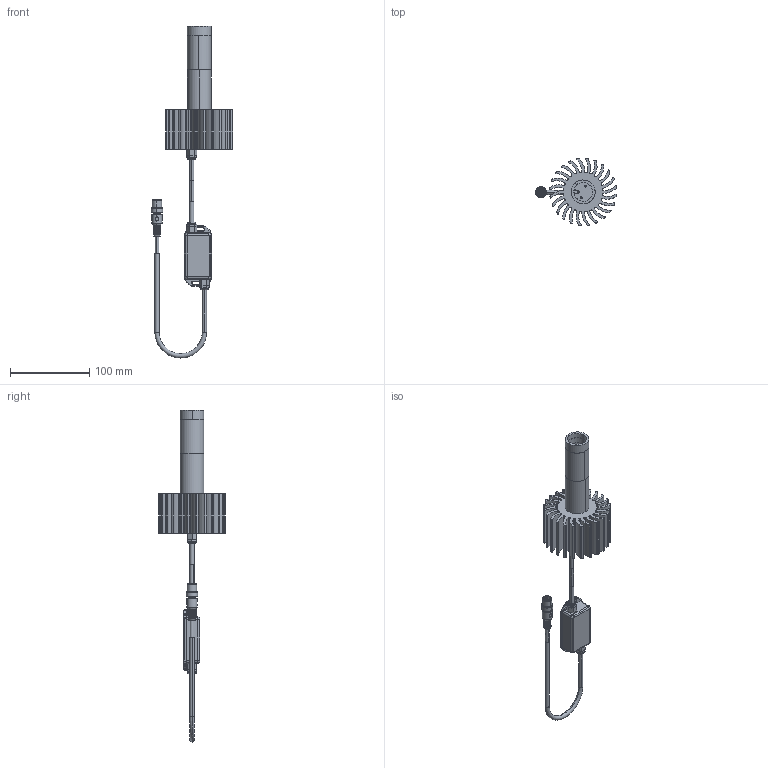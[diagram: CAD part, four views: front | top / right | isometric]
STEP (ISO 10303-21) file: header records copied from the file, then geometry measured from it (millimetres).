
FILE_DESCRIPTION (( 'STEP AP214' ), '1' );
FILE_NAME ('EFFI SHARP POWER FL_CM.STEP', '2024-07-15T09:02:50', ( '' ), ( '' ), 'SwSTEP 2.0', 'SolidWorks 2024', '' );
FILE_SCHEMA (( 'AUTOMOTIVE_DESIGN' ));
Length unit declared in the file: millimetre
Products named in the file (1): EFFI SHARP POWER FL_CM
Bounding box: 103.13 x 84.75 x 420.23 mm (x, y, z)
Surface area: 92907.2 mm2 (no closed solid volume)
Topology: 0 solids, 32 shells, 597 faces, 1775 edges, 1200 vertices
Faces by surface type: cylinder 380, plane 124, torus 40, cone 29, bspline 24
Entity records: 20938 total; most frequent: CARTESIAN_POINT 4459, DIRECTION 3765, ORIENTED_EDGE 3201, EDGE_CURVE 1775, AXIS2_PLACEMENT_3D 1500, VERTEX_POINT 1200, CIRCLE 926, VECTOR 765
